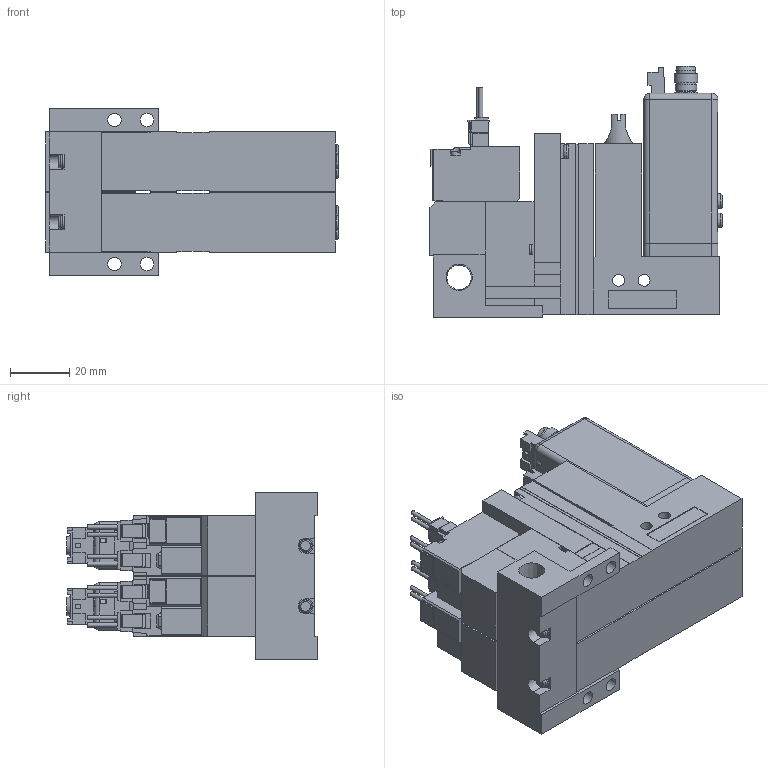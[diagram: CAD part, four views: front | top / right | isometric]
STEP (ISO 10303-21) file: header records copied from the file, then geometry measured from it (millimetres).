
FILE_DESCRIPTION(('STEP AP203'),'1');
FILE_NAME('22_22PLC5ALR202.stp','2025-06-12T02:02:35',(' '),(' '),'Spatial InterOp 3D',' ',' ');
FILE_SCHEMA(('CONFIG_CONTROL_DESIGN'));
Length unit declared in the file: millimetre
Products named in the file (6): BMC22M※※※※22_22PLC5ALR202; Solenoid valve A; Unit LC; Base MR20R; MVS-202
Assembly tree (7 placements, depth 2):
  BMC22M※※※※22_22PLC5ALR202
    Solenoid valve A  x2
    Unit LC  x2
    Base MR20R
    MVS-202
    MVS-202
Bounding box: 98.5 x 84.6 x 56.5 mm (x, y, z)
Volume: 223103.4 mm3; surface area: 64573.8 mm2
Topology: 7 solids, 15 shells, 1629 faces, 4251 edges, 2772 vertices
Faces by surface type: plane 1370, cylinder 201, cone 34, torus 16, sphere 8
Full cylindrical faces by diameter (mm): 1 x8, 1.4 x8, 1.5 x2, 2.5 x2, 3 x8, 3.5 x8, 3.6 x2, 4 x4, 4.134 x2, 4.5 x12, 4.8 x6, 5 x4, 5.2 x2, 5.8 x4, 6 x4, 6.5 x6, 6.6 x2, 7 x2, 7.2 x2, 7.9 x2, 8 x4, 8.279 x1
Entity records: 37759 total; most frequent: CARTESIAN_POINT 6842, ORIENTED_EDGE 6206, DIRECTION 6055, EDGE_CURVE 3103, LINE 2643, VECTOR 2643, VERTEX_POINT 2097, AXIS2_PLACEMENT_3D 1706
